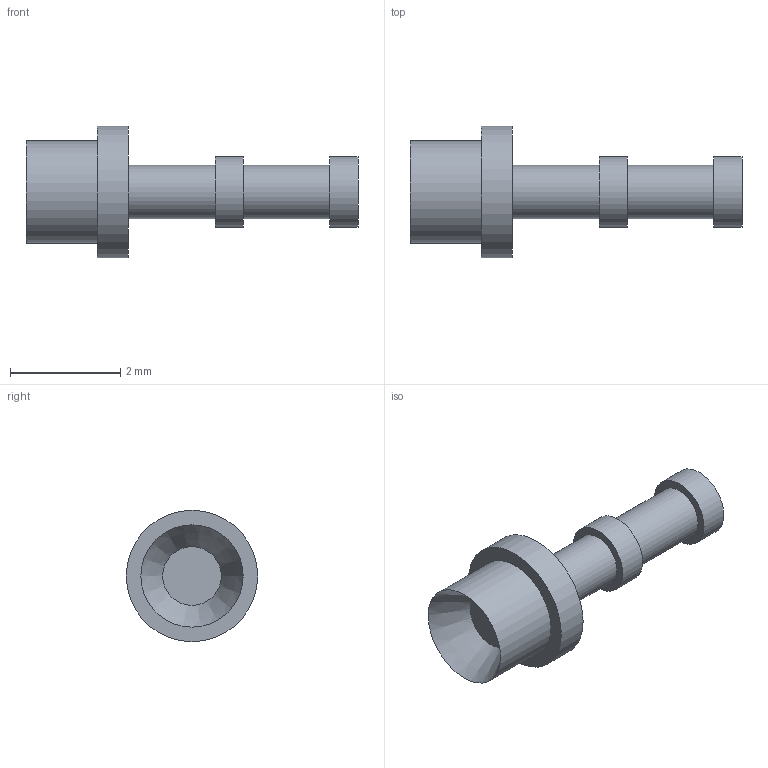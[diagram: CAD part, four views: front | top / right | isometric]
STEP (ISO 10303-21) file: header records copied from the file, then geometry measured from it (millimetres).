
FILE_DESCRIPTION(/* description */ (''),/* implementation_level */ '2;1');
FILE_NAME(/* name */ 'Z:\STEP folder\160-2043-01.ipt.stp',/* time_stamp */ '2016-12-07T10:50:29+00:00',/* author */ ('Paul Karlsons'),/* organization */ (''),/* preprocessor_version */ 'ST-DEVELOPER v15.2',/* originating_system */ 'Autodesk Inventor 2014',/* authorisation */ '');
FILE_SCHEMA (('AUTOMOTIVE_DESIGN { 1 0 10303 214 3 1 1 }'));
Length unit declared in the file: millimetre
Products named in the file (1): 160-2043-01
Bounding box: 6.01 x 2.38 x 2.38 mm (x, y, z)
Volume: 8.4 mm3; surface area: 38.2 mm2
Topology: 1 solids, 1 shells, 14 faces, 20 edges, 13 vertices
Faces by surface type: plane 7, cylinder 6, cone 1
Full cylindrical faces by diameter (mm): 0.965 x1, 0.966 x1, 1.27 x2, 1.854 x1, 2.38 x1
Entity records: 295 total; most frequent: DIRECTION 56, CARTESIAN_POINT 41, AXIS2_PLACEMENT_3D 28, EDGE_LOOP 26, ORIENTED_EDGE 26, FACE_BOUND 14, ADVANCED_FACE 14, CIRCLE 13
